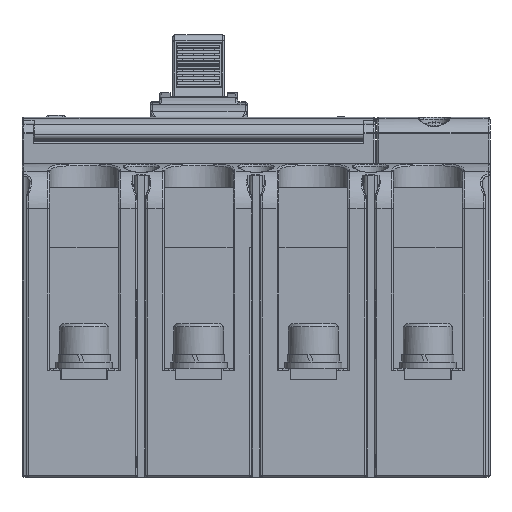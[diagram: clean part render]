
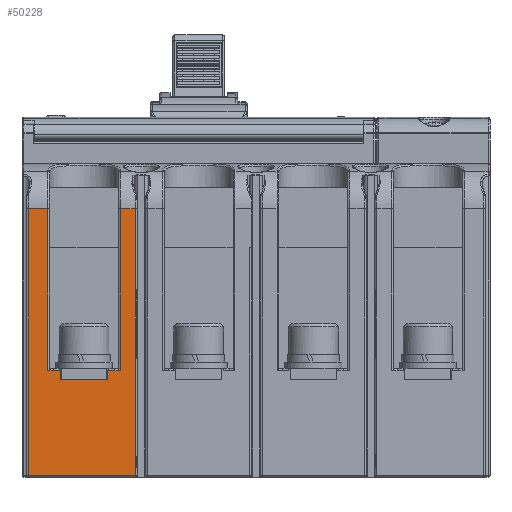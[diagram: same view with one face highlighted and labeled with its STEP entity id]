
A CAD part, front view. The second image highlights one B-rep face of the part: STEP entity #50228.
In plain terms, the highlighted planar face has unit normal (0, -1, 0) as drawn and (0, 0, 1) by its records, which use the part's own axes.
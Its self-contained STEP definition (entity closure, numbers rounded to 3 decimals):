
#5860 = DIRECTION ( 'NONE',  ( -1., 0., 0. ) ) ;
#8875 = CARTESIAN_POINT ( 'NONE',  ( 25.75, 70.2, 0. ) ) ;
#15598 = VERTEX_POINT ( 'NONE', #142517 ) ;
#17347 = EDGE_CURVE ( 'NONE', #148986, #274524, #193764, .T. ) ;
#18630 = EDGE_CURVE ( 'NONE', #85283, #104741, #262553, .T. ) ;
#23856 = ORIENTED_EDGE ( 'NONE', *, *, #248823, .T. ) ;
#28520 = VECTOR ( 'NONE', #212252, 1000. ) ;
#29031 = LINE ( 'NONE', #8875, #246592 ) ;
#29728 = PLANE ( 'NONE',  #50202 ) ;
#32765 = CARTESIAN_POINT ( 'NONE',  ( 1.6, 70.2, 0. ) ) ;
#36964 = CARTESIAN_POINT ( 'NONE',  ( 25.75, 28., 0. ) ) ;
#37383 = EDGE_CURVE ( 'NONE', #243331, #244281, #210837, .T. ) ;
#38800 = DIRECTION ( 'NONE',  ( 0., 1., 0. ) ) ;
#43434 = EDGE_LOOP ( 'NONE', ( #62910, #145287, #91251, #52687, #23856, #179888, #61781, #148469, #58261, #92054, #271788, #211423 ) ) ;
#44839 = CARTESIAN_POINT ( 'NONE',  ( 1.6, 0.5, 0. ) ) ;
#50202 = AXIS2_PLACEMENT_3D ( 'NONE', #250671, #138777, #118658 ) ;
#50228 = ADVANCED_FACE ( 'NONE', ( #158913 ), #29728, .T. ) ;
#52687 = ORIENTED_EDGE ( 'NONE', *, *, #82319, .T. ) ;
#58261 = ORIENTED_EDGE ( 'NONE', *, *, #37383, .F. ) ;
#59378 = EDGE_CURVE ( 'NONE', #249145, #244281, #166188, .T. ) ;
#61781 = ORIENTED_EDGE ( 'NONE', *, *, #277272, .T. ) ;
#62910 = ORIENTED_EDGE ( 'NONE', *, *, #105202, .T. ) ;
#63879 = LINE ( 'NONE', #217454, #197658 ) ;
#68791 = DIRECTION ( 'NONE',  ( -1., 0., 0. ) ) ;
#70594 = LINE ( 'NONE', #73407, #170729 ) ;
#73407 = CARTESIAN_POINT ( 'NONE',  ( 29.65, 0.5, 0. ) ) ;
#80018 = LINE ( 'NONE', #36964, #181772 ) ;
#82319 = EDGE_CURVE ( 'NONE', #264264, #230116, #194630, .T. ) ;
#83260 = CARTESIAN_POINT ( 'NONE',  ( 22.35, 25.5, 0. ) ) ;
#85283 = VERTEX_POINT ( 'NONE', #210996 ) ;
#86611 = LINE ( 'NONE', #199956, #186642 ) ;
#91251 = ORIENTED_EDGE ( 'NONE', *, *, #171026, .F. ) ;
#92054 = ORIENTED_EDGE ( 'NONE', *, *, #270987, .T. ) ;
#94148 = LINE ( 'NONE', #157325, #160534 ) ;
#94935 = DIRECTION ( 'NONE',  ( -1., 0., 0. ) ) ;
#96442 = DIRECTION ( 'NONE',  ( 0., -1., 0. ) ) ;
#104741 = VERTEX_POINT ( 'NONE', #177068 ) ;
#105202 = EDGE_CURVE ( 'NONE', #15598, #274524, #80018, .T. ) ;
#107342 = CARTESIAN_POINT ( 'NONE',  ( 6.75, 28., 0. ) ) ;
#108217 = VECTOR ( 'NONE', #38800, 1000. ) ;
#112382 = CARTESIAN_POINT ( 'NONE',  ( 29.65, 0.5, 0. ) ) ;
#113266 = CARTESIAN_POINT ( 'NONE',  ( 29.65, 70.2, 0. ) ) ;
#115065 = CARTESIAN_POINT ( 'NONE',  ( 10.15, 28., 0. ) ) ;
#118658 = DIRECTION ( 'NONE',  ( 1., 0., 0. ) ) ;
#120295 = DIRECTION ( 'NONE',  ( 0., -1., 0. ) ) ;
#138777 = DIRECTION ( 'NONE',  ( 0., 0., 1. ) ) ;
#139397 = DIRECTION ( 'NONE',  ( 0., 1., 0. ) ) ;
#142517 = CARTESIAN_POINT ( 'NONE',  ( 25.75, 28., 0. ) ) ;
#145287 = ORIENTED_EDGE ( 'NONE', *, *, #17347, .F. ) ;
#148469 = ORIENTED_EDGE ( 'NONE', *, *, #59378, .T. ) ;
#148986 = VERTEX_POINT ( 'NONE', #179653 ) ;
#150012 = DIRECTION ( 'NONE',  ( 1., 0., 0. ) ) ;
#157325 = CARTESIAN_POINT ( 'NONE',  ( 6.75, 28., 0. ) ) ;
#158297 = DIRECTION ( 'NONE',  ( -1., 0., 0. ) ) ;
#158913 = FACE_OUTER_BOUND ( 'NONE', #43434, .T. ) ;
#160534 = VECTOR ( 'NONE', #266394, 1000. ) ;
#161295 = VECTOR ( 'NONE', #120295, 1000. ) ;
#166188 = LINE ( 'NONE', #32765, #161295 ) ;
#167434 = DIRECTION ( 'NONE',  ( 0., 1., 0. ) ) ;
#169140 = VECTOR ( 'NONE', #167434, 1000. ) ;
#170729 = VECTOR ( 'NONE', #139397, 1000. ) ;
#171026 = EDGE_CURVE ( 'NONE', #264264, #148986, #63879, .T. ) ;
#177068 = CARTESIAN_POINT ( 'NONE',  ( 25.75, 70.2, 0. ) ) ;
#179653 = CARTESIAN_POINT ( 'NONE',  ( 22.35, 25.5, 0. ) ) ;
#179888 = ORIENTED_EDGE ( 'NONE', *, *, #254804, .T. ) ;
#181772 = VECTOR ( 'NONE', #5860, 1000. ) ;
#186642 = VECTOR ( 'NONE', #158297, 1000. ) ;
#191803 = CARTESIAN_POINT ( 'NONE',  ( 6.75, 70.2, 0. ) ) ;
#193764 = LINE ( 'NONE', #83260, #108217 ) ;
#194630 = LINE ( 'NONE', #236262, #169140 ) ;
#196594 = CARTESIAN_POINT ( 'NONE',  ( 1.6, 70.2, 0. ) ) ;
#197658 = VECTOR ( 'NONE', #150012, 1000. ) ;
#198364 = LINE ( 'NONE', #115065, #232341 ) ;
#199956 = CARTESIAN_POINT ( 'NONE',  ( 6.75, 70.2, 0. ) ) ;
#207223 = EDGE_CURVE ( 'NONE', #104741, #15598, #29031, .T. ) ;
#210837 = LINE ( 'NONE', #276833, #28520 ) ;
#210996 = CARTESIAN_POINT ( 'NONE',  ( 29.65, 70.2, 0. ) ) ;
#211423 = ORIENTED_EDGE ( 'NONE', *, *, #207223, .T. ) ;
#212252 = DIRECTION ( 'NONE',  ( -1., 0., 0. ) ) ;
#217454 = CARTESIAN_POINT ( 'NONE',  ( 10.15, 25.5, 0. ) ) ;
#224436 = CARTESIAN_POINT ( 'NONE',  ( 10.15, 28., 0. ) ) ;
#230116 = VERTEX_POINT ( 'NONE', #224436 ) ;
#232341 = VECTOR ( 'NONE', #94935, 1000. ) ;
#236262 = CARTESIAN_POINT ( 'NONE',  ( 10.15, 25.5, 0. ) ) ;
#243331 = VERTEX_POINT ( 'NONE', #112382 ) ;
#243889 = VERTEX_POINT ( 'NONE', #191803 ) ;
#244281 = VERTEX_POINT ( 'NONE', #44839 ) ;
#244629 = CARTESIAN_POINT ( 'NONE',  ( 22.35, 28., 0. ) ) ;
#246592 = VECTOR ( 'NONE', #96442, 1000. ) ;
#248823 = EDGE_CURVE ( 'NONE', #230116, #250642, #198364, .T. ) ;
#249145 = VERTEX_POINT ( 'NONE', #196594 ) ;
#250642 = VERTEX_POINT ( 'NONE', #107342 ) ;
#250671 = CARTESIAN_POINT ( 'NONE',  ( 0., 60., 0. ) ) ;
#254418 = CARTESIAN_POINT ( 'NONE',  ( 10.15, 25.5, 0. ) ) ;
#254804 = EDGE_CURVE ( 'NONE', #250642, #243889, #94148, .T. ) ;
#262553 = LINE ( 'NONE', #113266, #281175 ) ;
#264264 = VERTEX_POINT ( 'NONE', #254418 ) ;
#266394 = DIRECTION ( 'NONE',  ( 0., 1., 0. ) ) ;
#270987 = EDGE_CURVE ( 'NONE', #243331, #85283, #70594, .T. ) ;
#271788 = ORIENTED_EDGE ( 'NONE', *, *, #18630, .T. ) ;
#274524 = VERTEX_POINT ( 'NONE', #244629 ) ;
#276833 = CARTESIAN_POINT ( 'NONE',  ( 29.65, 0.5, 0. ) ) ;
#277272 = EDGE_CURVE ( 'NONE', #243889, #249145, #86611, .T. ) ;
#281175 = VECTOR ( 'NONE', #68791, 1000. ) ;
